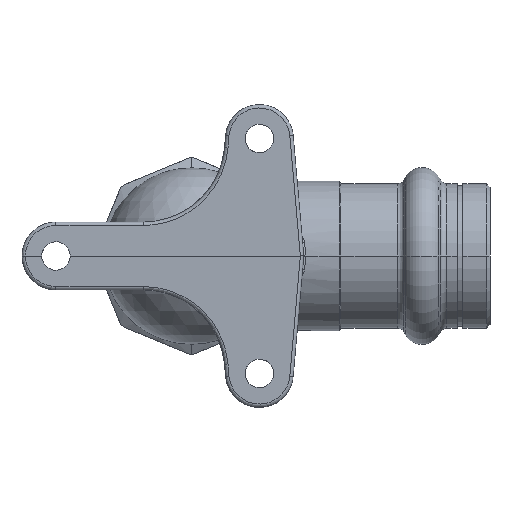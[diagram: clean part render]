
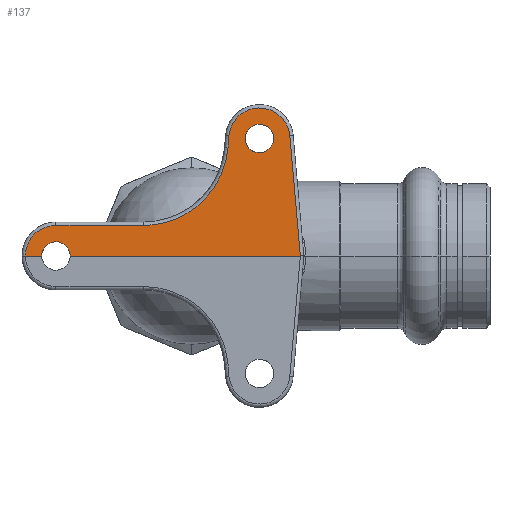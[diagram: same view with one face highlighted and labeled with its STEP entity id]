
A CAD part, left-side view. The second image highlights one B-rep face of the part: STEP entity #137.
In plain terms, the highlighted planar face has unit normal (-1, 0, 0.009).
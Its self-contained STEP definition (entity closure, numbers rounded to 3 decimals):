
#11 = CARTESIAN_POINT ( 'NONE',  ( -15.482, 20., 2.1 ) ) ;
#44 = CARTESIAN_POINT ( 'NONE',  ( -15.5, 22.1, 0. ) ) ;
#63 = DIRECTION ( 'NONE',  ( -0.009, 0.087, -0.996 ) ) ;
#73 = CARTESIAN_POINT ( 'NONE',  ( -15.5, 0., 0. ) ) ;
#137 = ADVANCED_FACE ( 'NONE', ( #2610, #3874 ), #2453, .T. ) ;
#138 = ORIENTED_EDGE ( 'NONE', *, *, #1328, .T. ) ;
#173 = EDGE_LOOP ( 'NONE', ( #3816, #2541, #1306, #3675, #2416, #5869, #6073, #4030, #5204, #138 ) ) ;
#223 = CARTESIAN_POINT ( 'NONE',  ( -15.331, -10., 19.421 ) ) ;
#282 =( BOUNDED_CURVE ( )  B_SPLINE_CURVE ( 3, ( #11, #489, #3808, #981 ),
 .UNSPECIFIED., .F., .T. ) 
 B_SPLINE_CURVE_WITH_KNOTS ( ( 4, 4 ),
 ( 0., 1.571 ),
 .UNSPECIFIED. ) 
 CURVE ( )  GEOMETRIC_REPRESENTATION_ITEM ( )  RATIONAL_B_SPLINE_CURVE ( ( 1., 0.805, 0.805, 1. ) ) 
 REPRESENTATION_ITEM ( '' )  );
#285 = EDGE_CURVE ( 'NONE', #626, #2703, #2345, .T. ) ;
#312 = DIRECTION ( 'NONE',  ( -1., 0., 0.009 ) ) ;
#481 = VERTEX_POINT ( 'NONE', #4923 ) ;
#489 = CARTESIAN_POINT ( 'NONE',  ( -15.482, 18.77, 2.1 ) ) ;
#567 = CARTESIAN_POINT ( 'NONE',  ( -15.482, 20., 2.1 ) ) ;
#606 = CARTESIAN_POINT ( 'NONE',  ( -15.461, 20., 4.504 ) ) ;
#626 = VERTEX_POINT ( 'NONE', #3213 ) ;
#681 = LINE ( 'NONE', #3537, #5605 ) ;
#683 = EDGE_CURVE ( 'NONE', #5875, #4112, #681, .T. ) ;
#749 = VERTEX_POINT ( 'NONE', #2226 ) ;
#764 = VECTOR ( 'NONE', #5775, 1000. ) ;
#820 = EDGE_CURVE ( 'NONE', #2703, #749, #1507, .T. ) ;
#883 = CARTESIAN_POINT ( 'NONE',  ( -15.279, -13.817, 25.323 ) ) ;
#963 = CARTESIAN_POINT ( 'NONE',  ( -15.42, -4.765, 9.116 ) ) ;
#981 = CARTESIAN_POINT ( 'NONE',  ( -15.5, 17.9, 0. ) ) ;
#987 = EDGE_CURVE ( 'NONE', #3697, #4675, #4531, .T. ) ;
#1018 = EDGE_CURVE ( 'NONE', #749, #4630, #5872, .T. ) ;
#1042 = LINE ( 'NONE', #3844, #5788 ) ;
#1094 = EDGE_CURVE ( 'NONE', #6032, #3697, #3017, .T. ) ;
#1144 = CARTESIAN_POINT ( 'NONE',  ( -15.367, -10., 15.221 ) ) ;
#1209 = EDGE_CURVE ( 'NONE', #4630, #6032, #1042, .T. ) ;
#1228 = CARTESIAN_POINT ( 'NONE',  ( -15.367, -10., 15.221 ) ) ;
#1250 = EDGE_CURVE ( 'NONE', #4112, #2323, #4124, .T. ) ;
#1306 = ORIENTED_EDGE ( 'NONE', *, *, #3835, .T. ) ;
#1328 = EDGE_CURVE ( 'NONE', #4675, #5875, #3679, .T. ) ;
#1378 = EDGE_CURVE ( 'NONE', #481, #1840, #3230, .T. ) ;
#1439 = CARTESIAN_POINT ( 'NONE',  ( -15.361, -5.359, 15.915 ) ) ;
#1507 = LINE ( 'NONE', #4615, #1652 ) ;
#1521 = CARTESIAN_POINT ( 'NONE',  ( -15.461, 0., 4.504 ) ) ;
#1643 = CARTESIAN_POINT ( 'NONE',  ( -15.5, 24.5, 0. ) ) ;
#1652 = VECTOR ( 'NONE', #2272, 1000. ) ;
#1840 = VERTEX_POINT ( 'NONE', #5544 ) ;
#1910 = CARTESIAN_POINT ( 'NONE',  ( -15.461, 7.093, 4.504 ) ) ;
#1981 = CARTESIAN_POINT ( 'NONE',  ( -15.489, 22.1, 1.23 ) ) ;
#2036 = CARTESIAN_POINT ( 'NONE',  ( -15.5, 0., 0. ) ) ;
#2068 = CARTESIAN_POINT ( 'NONE',  ( -15.477, 24.503, 2.638 ) ) ;
#2226 = CARTESIAN_POINT ( 'NONE',  ( -15.345, -14.483, 17.717 ) ) ;
#2272 = DIRECTION ( 'NONE',  ( 0.009, 0.087, 0.996 ) ) ;
#2314 = CARTESIAN_POINT ( 'NONE',  ( -15.345, -5.517, 17.717 ) ) ;
#2323 = VERTEX_POINT ( 'NONE', #4704 ) ;
#2345 = LINE ( 'NONE', #2036, #4699 ) ;
#2416 = ORIENTED_EDGE ( 'NONE', *, *, #820, .T. ) ;
#2417 = EDGE_LOOP ( 'NONE', ( #2854, #5231 ) ) ;
#2453 = PLANE ( 'NONE',  #3268 ) ;
#2541 = ORIENTED_EDGE ( 'NONE', *, *, #1250, .T. ) ;
#2610 = FACE_BOUND ( 'NONE', #2417, .T. ) ;
#2703 = VERTEX_POINT ( 'NONE', #5220 ) ;
#2854 = ORIENTED_EDGE ( 'NONE', *, *, #1378, .T. ) ;
#2901 = CARTESIAN_POINT ( 'NONE',  ( -15.361, -5.359, 15.915 ) ) ;
#2912 = EDGE_CURVE ( 'NONE', #1840, #481, #3859, .T. ) ;
#3017 =( BOUNDED_CURVE ( )  B_SPLINE_CURVE ( 3, ( #1439, #963, #3794, #1910 ),
 .UNSPECIFIED., .F., .F. ) 
 B_SPLINE_CURVE_WITH_KNOTS ( ( 4, 4 ),
 ( 4.8, 6.283 ),
 .UNSPECIFIED. ) 
 CURVE ( )  GEOMETRIC_REPRESENTATION_ITEM ( )  RATIONAL_B_SPLINE_CURVE ( ( 1., 0.825, 0.825, 1. ) ) 
 REPRESENTATION_ITEM ( '' )  );
#3052 = DIRECTION ( 'NONE',  ( 0., -1., 0. ) ) ;
#3068 = CARTESIAN_POINT ( 'NONE',  ( -15.331, -5.8, 19.421 ) ) ;
#3213 = CARTESIAN_POINT ( 'NONE',  ( -15.5, 17.9, 0. ) ) ;
#3230 =( BOUNDED_CURVE ( )  B_SPLINE_CURVE ( 3, ( #1144, #4450, #3068, #223 ),
 .UNSPECIFIED., .F., .F. ) 
 B_SPLINE_CURVE_WITH_KNOTS ( ( 4, 4 ),
 ( 3.142, 6.283 ),
 .UNSPECIFIED. ) 
 CURVE ( )  GEOMETRIC_REPRESENTATION_ITEM ( )  RATIONAL_B_SPLINE_CURVE ( ( 1., 0.333, 0.333, 1. ) ) 
 REPRESENTATION_ITEM ( '' )  );
#3268 = AXIS2_PLACEMENT_3D ( 'NONE', #73, #312, #3636 ) ;
#3412 = CARTESIAN_POINT ( 'NONE',  ( -15.482, 21.23, 2.1 ) ) ;
#3537 = CARTESIAN_POINT ( 'NONE',  ( -15.5, 0., 0. ) ) ;
#3636 = DIRECTION ( 'NONE',  ( 0.009, 0., 1. ) ) ;
#3675 = ORIENTED_EDGE ( 'NONE', *, *, #285, .T. ) ;
#3679 =( BOUNDED_CURVE ( )  B_SPLINE_CURVE ( 3, ( #4385, #4411, #2068, #5379 ),
 .UNSPECIFIED., .F., .F. ) 
 B_SPLINE_CURVE_WITH_KNOTS ( ( 4, 4 ),
 ( 3.142, 4.713 ),
 .UNSPECIFIED. ) 
 CURVE ( )  GEOMETRIC_REPRESENTATION_ITEM ( )  RATIONAL_B_SPLINE_CURVE ( ( 1., 0.805, 0.805, 1. ) ) 
 REPRESENTATION_ITEM ( '' )  );
#3697 = VERTEX_POINT ( 'NONE', #5229 ) ;
#3718 = CARTESIAN_POINT ( 'NONE',  ( -15.345, -14.483, 17.717 ) ) ;
#3787 = CARTESIAN_POINT ( 'NONE',  ( -15.345, -5.517, 17.717 ) ) ;
#3794 = CARTESIAN_POINT ( 'NONE',  ( -15.461, 0.268, 4.504 ) ) ;
#3808 = CARTESIAN_POINT ( 'NONE',  ( -15.489, 17.9, 1.23 ) ) ;
#3816 = ORIENTED_EDGE ( 'NONE', *, *, #683, .T. ) ;
#3835 = EDGE_CURVE ( 'NONE', #2323, #626, #282, .T. ) ;
#3844 = CARTESIAN_POINT ( 'NONE',  ( -15.503, -3.937, -0.344 ) ) ;
#3859 =( BOUNDED_CURVE ( )  B_SPLINE_CURVE ( 3, ( #4707, #5230, #4054, #1228 ),
 .UNSPECIFIED., .F., .T. ) 
 B_SPLINE_CURVE_WITH_KNOTS ( ( 4, 4 ),
 ( 0., 3.142 ),
 .UNSPECIFIED. ) 
 CURVE ( )  GEOMETRIC_REPRESENTATION_ITEM ( )  RATIONAL_B_SPLINE_CURVE ( ( 1., 0.333, 0.333, 1. ) ) 
 REPRESENTATION_ITEM ( '' )  );
#3874 = FACE_OUTER_BOUND ( 'NONE', #173, .T. ) ;
#4030 = ORIENTED_EDGE ( 'NONE', *, *, #1094, .T. ) ;
#4054 = CARTESIAN_POINT ( 'NONE',  ( -15.367, -14.2, 15.221 ) ) ;
#4112 = VERTEX_POINT ( 'NONE', #44 ) ;
#4124 =( BOUNDED_CURVE ( )  B_SPLINE_CURVE ( 3, ( #4815, #1981, #3412, #567 ),
 .UNSPECIFIED., .F., .F. ) 
 B_SPLINE_CURVE_WITH_KNOTS ( ( 4, 4 ),
 ( 4.712, 6.283 ),
 .UNSPECIFIED. ) 
 CURVE ( )  GEOMETRIC_REPRESENTATION_ITEM ( )  RATIONAL_B_SPLINE_CURVE ( ( 1., 0.805, 0.805, 1. ) ) 
 REPRESENTATION_ITEM ( '' )  );
#4385 = CARTESIAN_POINT ( 'NONE',  ( -15.461, 20., 4.504 ) ) ;
#4411 = CARTESIAN_POINT ( 'NONE',  ( -15.461, 22.638, 4.504 ) ) ;
#4450 = CARTESIAN_POINT ( 'NONE',  ( -15.367, -5.8, 15.221 ) ) ;
#4531 = LINE ( 'NONE', #1521, #764 ) ;
#4615 = CARTESIAN_POINT ( 'NONE',  ( -15.488, -15.911, 1.392 ) ) ;
#4630 = VERTEX_POINT ( 'NONE', #3787 ) ;
#4675 = VERTEX_POINT ( 'NONE', #606 ) ;
#4699 = VECTOR ( 'NONE', #5847, 1000. ) ;
#4704 = CARTESIAN_POINT ( 'NONE',  ( -15.482, 20., 2.1 ) ) ;
#4707 = CARTESIAN_POINT ( 'NONE',  ( -15.331, -10., 19.421 ) ) ;
#4815 = CARTESIAN_POINT ( 'NONE',  ( -15.5, 22.1, 0. ) ) ;
#4923 = CARTESIAN_POINT ( 'NONE',  ( -15.367, -10., 15.221 ) ) ;
#5148 = CARTESIAN_POINT ( 'NONE',  ( -15.279, -6.183, 25.323 ) ) ;
#5204 = ORIENTED_EDGE ( 'NONE', *, *, #987, .T. ) ;
#5220 = CARTESIAN_POINT ( 'NONE',  ( -15.5, -16.033, 0. ) ) ;
#5229 = CARTESIAN_POINT ( 'NONE',  ( -15.461, 7.093, 4.504 ) ) ;
#5230 = CARTESIAN_POINT ( 'NONE',  ( -15.331, -14.2, 19.421 ) ) ;
#5231 = ORIENTED_EDGE ( 'NONE', *, *, #2912, .T. ) ;
#5379 = CARTESIAN_POINT ( 'NONE',  ( -15.5, 24.5, 0. ) ) ;
#5544 = CARTESIAN_POINT ( 'NONE',  ( -15.331, -10., 19.421 ) ) ;
#5605 = VECTOR ( 'NONE', #3052, 1000. ) ;
#5775 = DIRECTION ( 'NONE',  ( 0., 1., 0. ) ) ;
#5788 = VECTOR ( 'NONE', #63, 1000. ) ;
#5847 = DIRECTION ( 'NONE',  ( 0., -1., 0. ) ) ;
#5869 = ORIENTED_EDGE ( 'NONE', *, *, #1018, .T. ) ;
#5872 =( BOUNDED_CURVE ( )  B_SPLINE_CURVE ( 3, ( #3718, #883, #5148, #2314 ),
 .UNSPECIFIED., .F., .F. ) 
 B_SPLINE_CURVE_WITH_KNOTS ( ( 4, 4 ),
 ( 1.658, 4.625 ),
 .UNSPECIFIED. ) 
 CURVE ( )  GEOMETRIC_REPRESENTATION_ITEM ( )  RATIONAL_B_SPLINE_CURVE ( ( 1., 0.391, 0.391, 1. ) ) 
 REPRESENTATION_ITEM ( '' )  );
#5875 = VERTEX_POINT ( 'NONE', #1643 ) ;
#6032 = VERTEX_POINT ( 'NONE', #2901 ) ;
#6073 = ORIENTED_EDGE ( 'NONE', *, *, #1209, .T. ) ;
